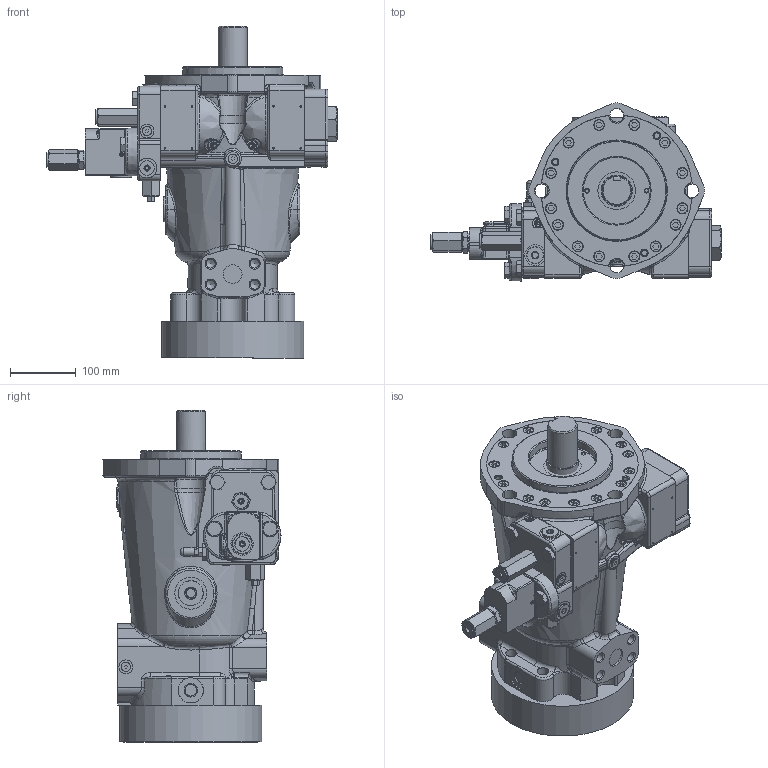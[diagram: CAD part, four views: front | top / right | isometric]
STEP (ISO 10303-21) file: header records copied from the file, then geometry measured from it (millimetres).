
FILE_DESCRIPTION(/* description */ (''),/* implementation_level */ '2;1');
FILE_NAME(/* name */ 'G:\Cadusers\Miller\3D\P072R1CK10C0 solid.stp',/* time_stamp */ '2016-04-11T14:18:18-04:00',/* author */ ('cma4859'),/* organization */ (''),/* preprocessor_version */ 'ST-DEVELOPER v15.2',/* originating_system */ 'Autodesk Inventor 2014',/* authorisation */ '');
FILE_SCHEMA (('AUTOMOTIVE_DESIGN { 1 0 10303 214 3 1 1 }'));
Length unit declared in the file: millimetre
Products named in the file (1): P072R1CK10C0 solid
Bounding box: 440.89 x 270.27 x 503.71 mm (x, y, z)
Volume: 16166945.9 mm3; surface area: 1003415.5 mm2
Topology: 53 solids, 55 shells, 1933 faces, 5176 edges, 3478 vertices
Faces by surface type: plane 724, cylinder 483, cone 353, bspline 242, torus 117, sphere 14
Full cylindrical faces by diameter (mm): 1.5 x2, 2.286 x8, 3.175 x1, 3.962 x2, 5.359 x2, 6 x3, 6.35 x4, 6.401 x1, 6.413 x1, 6.782 x1, 7.938 x5, 8.382 x17, 9.246 x6, 9.52 x1, 9.652 x1, 10 x4, 10.16 x14, 10.319 x14, 10.592 x4, 11.1 x3, 11.113 x7, 12 x4, 12.217 x2, 12.497 x2, 12.5 x9, 13.386 x12, 13.7 x1, 14 x1, 14.224 x3, 14.287 x1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
Entity records: 78373 total; most frequent: CARTESIAN_POINT 34016, ORIENTED_EDGE 9040, DIRECTION 8002, EDGE_CURVE 4520, AXIS2_PLACEMENT_3D 3392, VERTEX_POINT 3354, EDGE_LOOP 2690, STYLED_ITEM 1986
